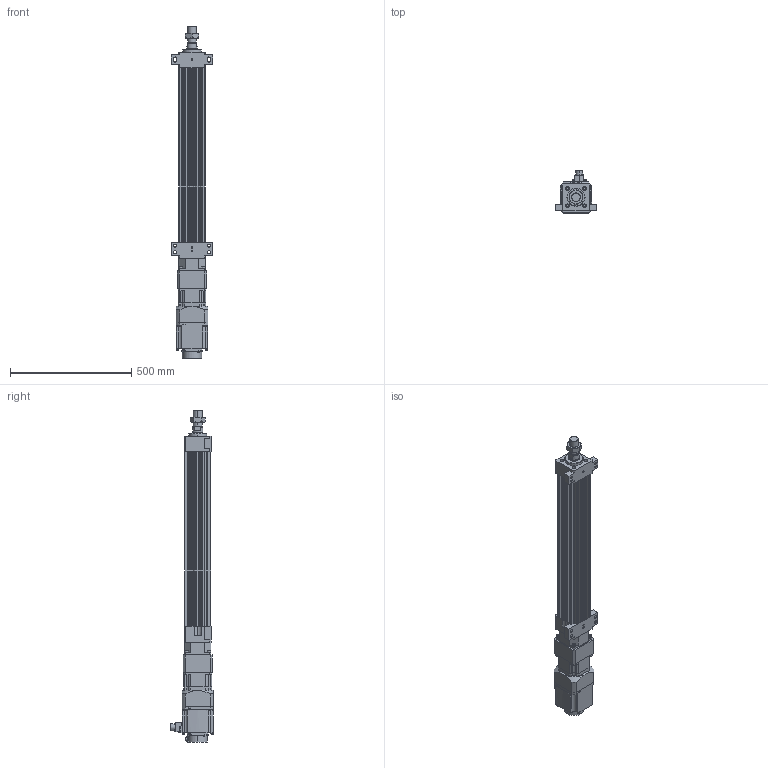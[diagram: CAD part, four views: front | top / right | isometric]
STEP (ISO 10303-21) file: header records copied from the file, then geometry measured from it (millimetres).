
FILE_DESCRIPTION (( 'STEP AP203' ), '1' );
FILE_NAME ('HES110NS(HS)-S550-W015G00-M-FFB.STEP', '2023-01-27T12:14:58', ( 'tms' ), ( '' ), 'SwSTEP 2.0', 'SolidWorks 2013', '' );
FILE_SCHEMA (( 'CONFIG_CONTROL_DESIGN' ));
Length unit declared in the file: millimetre
Products named in the file (8): P0401400706; HES110-S550-G120-FFB; HES110NS(HS)-S550-W015G00-M-FFB; HES110 ROD M ST550; AB1151; M36X1.5P; AB115-003[HG-SR152]; HG-SR152
Assembly tree (7 placements, depth 3):
  HES110NS(HS)-S550-W015G00-M-FFB
    HES110-S550-G120-FFB
    HES110 ROD M ST550
    M36X1.5P
    AB115-003[HG-SR152]
      AB1151
      P0401400706
    HG-SR152
Bounding box: 170 x 177.49 x 1371.5 mm (x, y, z)
Volume: 8843938.2 mm3; surface area: 1252123.6 mm2
Topology: 4 solids, 15 shells, 1194 faces, 3023 edges, 1968 vertices
Faces by surface type: plane 571, cylinder 531, cone 80, bspline 8, torus 4
Entity records: 37745 total; most frequent: CARTESIAN_POINT 7162, DIRECTION 6520, ORIENTED_EDGE 5998, EDGE_CURVE 3009, AXIS2_PLACEMENT_3D 2386, VERTEX_POINT 1968, VECTOR 1748, LINE 1748
